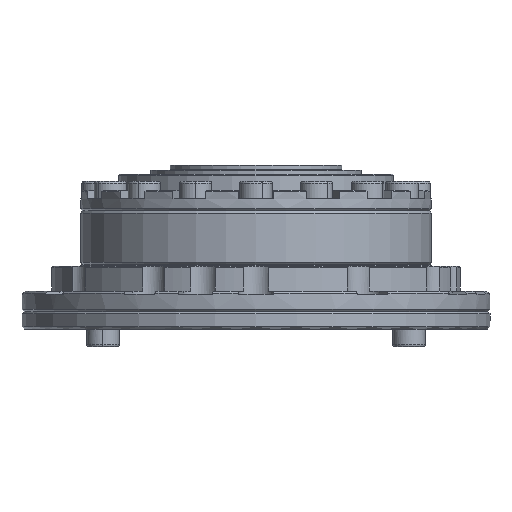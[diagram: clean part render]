
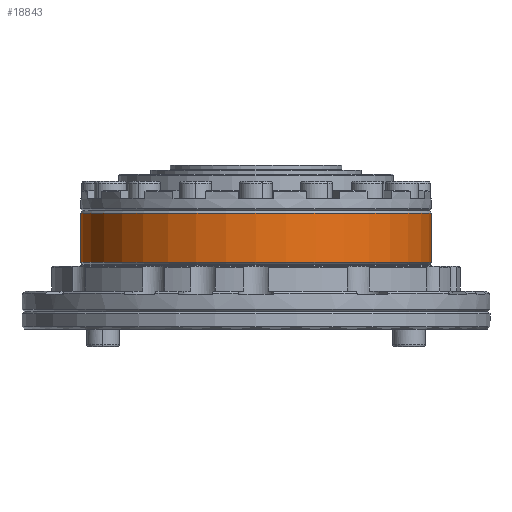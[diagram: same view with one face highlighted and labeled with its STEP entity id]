
A CAD part, front view. The second image highlights one B-rep face of the part: STEP entity #18843.
In plain terms, the highlighted cylindrical face has radius 30 mm (diameter 60 mm), a partial arc.
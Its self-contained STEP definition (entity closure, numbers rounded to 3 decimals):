
#3304 = FACE_OUTER_BOUND ( 'NONE', #6335, .T. ) ;
#4398 = AXIS2_PLACEMENT_3D ( 'NONE', #33987, #17508, #20847 ) ;
#4565 = CARTESIAN_POINT ( 'NONE',  ( 30., 0., -7.256 ) ) ;
#6335 = EDGE_LOOP ( 'NONE', ( #13816, #28965, #32736, #9526 ) ) ;
#6415 = CARTESIAN_POINT ( 'NONE',  ( -30., 0., 4.9 ) ) ;
#8177 = DIRECTION ( 'NONE',  ( -1., 0., 0. ) ) ;
#8185 = DIRECTION ( 'NONE',  ( 0., 0., -1. ) ) ;
#8577 = CARTESIAN_POINT ( 'NONE',  ( 30., 0., 4.9 ) ) ;
#9526 = ORIENTED_EDGE ( 'NONE', *, *, #30277, .F. ) ;
#10294 = EDGE_CURVE ( 'NONE', #20231, #30502, #28254, .T. ) ;
#11558 = CARTESIAN_POINT ( 'NONE',  ( 30., 0., 13.35 ) ) ;
#13176 = VERTEX_POINT ( 'NONE', #8577 ) ;
#13816 = ORIENTED_EDGE ( 'NONE', *, *, #14096, .F. ) ;
#14096 = EDGE_CURVE ( 'NONE', #37303, #13176, #30076, .T. ) ;
#14518 = DIRECTION ( 'NONE',  ( 0., 0., -1. ) ) ;
#16725 = CYLINDRICAL_SURFACE ( 'NONE', #4398, 30. ) ;
#17508 = DIRECTION ( 'NONE',  ( 0., 0., -1. ) ) ;
#18025 = CARTESIAN_POINT ( 'NONE',  ( -30., 0., 13.35 ) ) ;
#18843 = ADVANCED_FACE ( 'NONE', ( #3304 ), #16725, .T. ) ;
#20231 = VERTEX_POINT ( 'NONE', #18025 ) ;
#20847 = DIRECTION ( 'NONE',  ( -1., 0., 0. ) ) ;
#21716 = CIRCLE ( 'NONE', #21787, 30. ) ;
#21787 = AXIS2_PLACEMENT_3D ( 'NONE', #24905, #28240, #38350 ) ;
#23917 = EDGE_CURVE ( 'NONE', #37303, #20231, #21716, .T. ) ;
#24905 = CARTESIAN_POINT ( 'NONE',  ( 0., 0., 13.35 ) ) ;
#25841 = CARTESIAN_POINT ( 'NONE',  ( -30., 0., -7.256 ) ) ;
#26119 = DIRECTION ( 'NONE',  ( 0., 0., -1. ) ) ;
#27932 = CARTESIAN_POINT ( 'NONE',  ( 0., 0., 4.9 ) ) ;
#28240 = DIRECTION ( 'NONE',  ( 0., 0., -1. ) ) ;
#28254 = LINE ( 'NONE', #25841, #29302 ) ;
#28965 = ORIENTED_EDGE ( 'NONE', *, *, #23917, .T. ) ;
#29302 = VECTOR ( 'NONE', #26119, 1000. ) ;
#30076 = LINE ( 'NONE', #4565, #39641 ) ;
#30277 = EDGE_CURVE ( 'NONE', #13176, #30502, #38509, .T. ) ;
#30502 = VERTEX_POINT ( 'NONE', #6415 ) ;
#32736 = ORIENTED_EDGE ( 'NONE', *, *, #10294, .T. ) ;
#33987 = CARTESIAN_POINT ( 'NONE',  ( 0., 0., -7.256 ) ) ;
#34750 = AXIS2_PLACEMENT_3D ( 'NONE', #27932, #14518, #8177 ) ;
#37303 = VERTEX_POINT ( 'NONE', #11558 ) ;
#38350 = DIRECTION ( 'NONE',  ( -1., 0., 0. ) ) ;
#38509 = CIRCLE ( 'NONE', #34750, 30. ) ;
#39641 = VECTOR ( 'NONE', #8185, 1000. ) ;
